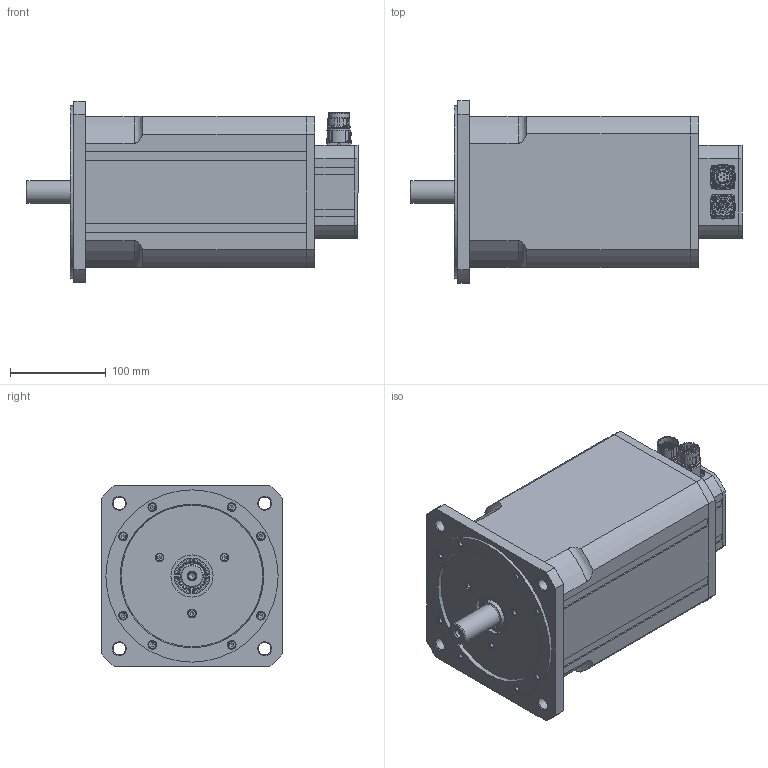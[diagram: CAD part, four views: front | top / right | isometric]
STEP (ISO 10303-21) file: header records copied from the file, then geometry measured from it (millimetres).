
FILE_DESCRIPTION(/* description */ (''),/* implementation_level */ '2;1');
FILE_NAME(/* name */ 'V:\6\N6025 00 B\3D Z\N6025 00 B Z_3800_8P_12P.stp',/* time_stamp */ '2017-06-28T12:02:24+02:00',/* author */ ('simik'),/* organization */ (''),/* preprocessor_version */ 'ST-DEVELOPER v16.13',/* originating_system */ 'Autodesk Inventor 2018',/* authorisation */ '');
FILE_SCHEMA (('AUTOMOTIVE_DESIGN { 1 0 10303 214 3 1 1 }'));
Products named in the file (5): N6025 00 B Z; N6025 00 B Z_front; N6025 00 B Z_3800; 127331; 127344
Assembly tree (4 placements, depth 2):
  N6025 00 B Z
    N6025 00 B Z_front
    N6025 00 B Z_3800
    127331
    127344
Bounding box: 347 x 190 x 190 mm (x, y, z)
Volume: 2349165.7 mm3; surface area: 471016.1 mm2
Topology: 7 solids, 38 shells, 2175 faces, 5223 edges, 3227 vertices
Faces by surface type: cylinder 862, plane 705, torus 209, cone 186, bspline 164, sphere 49
Full cylindrical faces by diameter (mm): 1 x16, 1.18 x12, 1.3 x4, 2 x4, 2.013 x8, 2.15 x4, 2.208 x8, 2.4 x8, 2.459 x10, 2.5 x8, 2.7 x8, 3 x4, 3.242 x5, 3.3 x4, 3.545 x4, 3.95 x4, 4 x4, 4.134 x16, 4.4 x4, 5 x27, 5.3 x19, 5.8 x1, 6.5 x4, 6.647 x1, 6.8 x1, 8 x4, 8.4 x1, 8.5 x23, 9 x19, 13 x4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
Entity records: 69536 total; most frequent: CARTESIAN_POINT 20280, DIRECTION 10167, ORIENTED_EDGE 9052, EDGE_CURVE 4434, AXIS2_PLACEMENT_3D 4356, VERTEX_POINT 2965, EDGE_LOOP 2903, ADVANCED_FACE 2171
